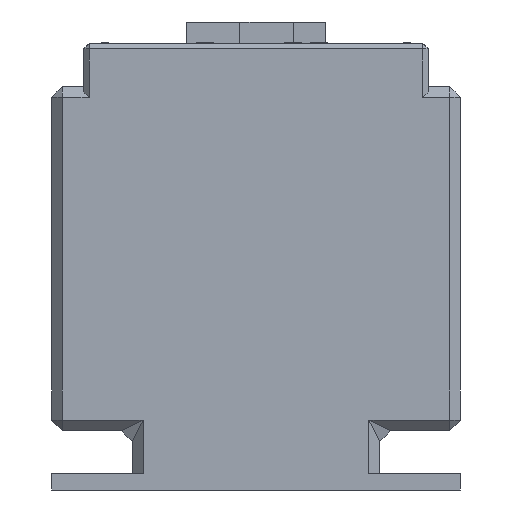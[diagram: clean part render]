
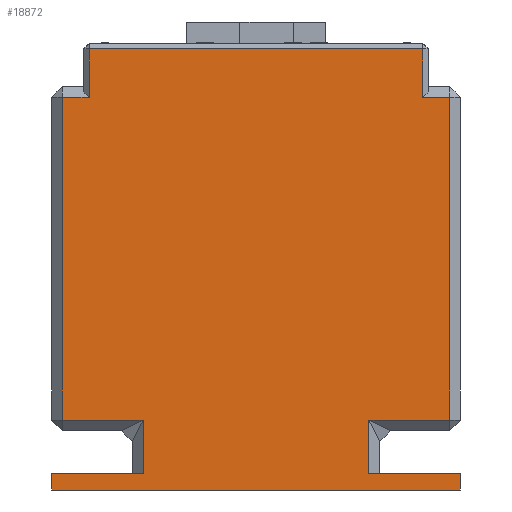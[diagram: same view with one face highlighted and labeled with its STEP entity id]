
A CAD part, left-side view. The second image highlights one B-rep face of the part: STEP entity #18872.
In plain terms, the highlighted planar face has unit normal (-1, 0, 0).
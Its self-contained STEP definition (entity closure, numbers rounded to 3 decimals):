
#1963=FACE_OUTER_BOUND('',#3087,.T.);
#3087=EDGE_LOOP('',(#15439,#15440,#15441,#15442,#15443,#15444,#15445,#15446,
#15447,#15448,#15449,#15450,#15451,#15452,#15453,#15454));
#4772=LINE('',#31553,#6654);
#4774=LINE('',#31556,#6656);
#4778=LINE('',#31566,#6660);
#4808=LINE('',#31629,#6690);
#4810=LINE('',#31632,#6692);
#4816=LINE('',#31641,#6698);
#4825=LINE('',#31657,#6707);
#4860=LINE('',#31730,#6742);
#4863=LINE('',#31735,#6745);
#4867=LINE('',#31741,#6749);
#4871=LINE('',#31749,#6753);
#4875=LINE('',#31757,#6757);
#4876=LINE('',#31759,#6758);
#4877=LINE('',#31761,#6759);
#4878=LINE('',#31763,#6760);
#4879=LINE('',#31764,#6761);
#6654=VECTOR('',#22549,10.);
#6656=VECTOR('',#22553,10.);
#6660=VECTOR('',#22563,10.);
#6690=VECTOR('',#22615,10.);
#6692=VECTOR('',#22619,10.);
#6698=VECTOR('',#22631,10.);
#6707=VECTOR('',#22646,10.);
#6742=VECTOR('',#22711,10.);
#6745=VECTOR('',#22718,10.);
#6749=VECTOR('',#22724,10.);
#6753=VECTOR('',#22732,10.);
#6757=VECTOR('',#22740,10.);
#6758=VECTOR('',#22741,10.);
#6759=VECTOR('',#22742,10.);
#6760=VECTOR('',#22743,10.);
#6761=VECTOR('',#22744,10.);
#8442=VERTEX_POINT('',#31537);
#8444=VERTEX_POINT('',#31546);
#8446=VERTEX_POINT('',#31551);
#8448=VERTEX_POINT('',#31562);
#8455=VERTEX_POINT('',#31579);
#8461=VERTEX_POINT('',#31593);
#8466=VERTEX_POINT('',#31605);
#8474=VERTEX_POINT('',#31653);
#8490=VERTEX_POINT('',#31705);
#8494=VERTEX_POINT('',#31713);
#8496=VERTEX_POINT('',#31722);
#8501=VERTEX_POINT('',#31747);
#8503=VERTEX_POINT('',#31756);
#8504=VERTEX_POINT('',#31758);
#8505=VERTEX_POINT('',#31760);
#8506=VERTEX_POINT('',#31762);
#10831=EDGE_CURVE('',#8446,#8444,#4772,.T.);
#10833=EDGE_CURVE('',#8444,#8442,#4774,.T.);
#10838=EDGE_CURVE('',#8442,#8448,#4778,.T.);
#10868=EDGE_CURVE('',#8448,#8466,#4808,.T.);
#10870=EDGE_CURVE('',#8466,#8461,#4810,.T.);
#10876=EDGE_CURVE('',#8461,#8455,#4816,.T.);
#10885=EDGE_CURVE('',#8455,#8474,#4825,.T.);
#10920=EDGE_CURVE('',#8496,#8494,#4860,.T.);
#10923=EDGE_CURVE('',#8490,#8496,#4863,.T.);
#10927=EDGE_CURVE('',#8494,#8446,#4867,.T.);
#10931=EDGE_CURVE('',#8501,#8490,#4871,.T.);
#10935=EDGE_CURVE('',#8501,#8503,#4875,.T.);
#10936=EDGE_CURVE('',#8504,#8503,#4876,.T.);
#10937=EDGE_CURVE('',#8504,#8505,#4877,.T.);
#10938=EDGE_CURVE('',#8505,#8506,#4878,.T.);
#10939=EDGE_CURVE('',#8506,#8474,#4879,.T.);
#15439=ORIENTED_EDGE('',*,*,#10927,.F.);
#15440=ORIENTED_EDGE('',*,*,#10920,.F.);
#15441=ORIENTED_EDGE('',*,*,#10923,.F.);
#15442=ORIENTED_EDGE('',*,*,#10931,.F.);
#15443=ORIENTED_EDGE('',*,*,#10935,.T.);
#15444=ORIENTED_EDGE('',*,*,#10936,.F.);
#15445=ORIENTED_EDGE('',*,*,#10937,.T.);
#15446=ORIENTED_EDGE('',*,*,#10938,.T.);
#15447=ORIENTED_EDGE('',*,*,#10939,.T.);
#15448=ORIENTED_EDGE('',*,*,#10885,.F.);
#15449=ORIENTED_EDGE('',*,*,#10876,.F.);
#15450=ORIENTED_EDGE('',*,*,#10870,.F.);
#15451=ORIENTED_EDGE('',*,*,#10868,.F.);
#15452=ORIENTED_EDGE('',*,*,#10838,.F.);
#15453=ORIENTED_EDGE('',*,*,#10833,.F.);
#15454=ORIENTED_EDGE('',*,*,#10831,.F.);
#17807=PLANE('',#19774);
#18872=ADVANCED_FACE('',(#1963),#17807,.T.);
#19774=AXIS2_PLACEMENT_3D('',#31755,#22738,#22739);
#22549=DIRECTION('',(0.,0.,1.));
#22553=DIRECTION('',(0.,-1.,0.));
#22563=DIRECTION('',(0.,0.,-1.));
#22615=DIRECTION('',(0.,-1.,0.));
#22619=DIRECTION('',(0.,0.,-1.));
#22631=DIRECTION('',(0.,1.,0.));
#22646=DIRECTION('',(0.,0.,-1.));
#22711=DIRECTION('',(0.,0.,1.));
#22718=DIRECTION('',(0.,1.,0.));
#22724=DIRECTION('',(0.,-1.,0.));
#22732=DIRECTION('',(0.,0.,1.));
#22738=DIRECTION('center_axis',(-1.,0.,0.));
#22739=DIRECTION('ref_axis',(0.,-1.,0.));
#22740=DIRECTION('',(0.,1.,0.));
#22741=DIRECTION('',(0.,0.,1.));
#22742=DIRECTION('',(0.,-1.,0.));
#22743=DIRECTION('',(0.,0.,1.));
#22744=DIRECTION('',(0.,1.,0.));
#31537=CARTESIAN_POINT('',(0.,7.,82.));
#31546=CARTESIAN_POINT('',(0.,69.,82.));
#31551=CARTESIAN_POINT('',(0.,69.,73.));
#31553=CARTESIAN_POINT('',(0.,69.,43.5));
#31556=CARTESIAN_POINT('',(0.,57.,82.));
#31562=CARTESIAN_POINT('',(0.,7.,73.));
#31566=CARTESIAN_POINT('',(0.,7.,43.5));
#31579=CARTESIAN_POINT('',(0.,17.,13.));
#31593=CARTESIAN_POINT('',(0.,2.,13.));
#31605=CARTESIAN_POINT('',(0.,2.,73.));
#31629=CARTESIAN_POINT('',(0.,39.803,73.));
#31632=CARTESIAN_POINT('',(0.,2.,0.));
#31641=CARTESIAN_POINT('',(0.,38.,13.));
#31653=CARTESIAN_POINT('',(0.,17.,3.));
#31657=CARTESIAN_POINT('',(0.,17.,3.5));
#31705=CARTESIAN_POINT('',(0.,59.,13.));
#31713=CARTESIAN_POINT('',(0.,74.,73.));
#31722=CARTESIAN_POINT('',(0.,74.,13.));
#31730=CARTESIAN_POINT('',(0.,74.,0.));
#31735=CARTESIAN_POINT('',(0.,76.,13.));
#31741=CARTESIAN_POINT('',(0.,74.197,73.));
#31747=CARTESIAN_POINT('',(0.,59.,3.));
#31749=CARTESIAN_POINT('',(0.,59.,3.5));
#31755=CARTESIAN_POINT('Origin',(0.,76.,0.));
#31756=CARTESIAN_POINT('',(0.,76.,3.));
#31757=CARTESIAN_POINT('',(0.,76.,3.));
#31758=CARTESIAN_POINT('',(0.,76.,0.));
#31759=CARTESIAN_POINT('',(0.,76.,0.));
#31760=CARTESIAN_POINT('',(0.,0.,0.));
#31761=CARTESIAN_POINT('',(0.,76.,0.));
#31762=CARTESIAN_POINT('',(0.,0.,3.));
#31763=CARTESIAN_POINT('',(0.,0.,0.));
#31764=CARTESIAN_POINT('',(0.,38.,3.));
